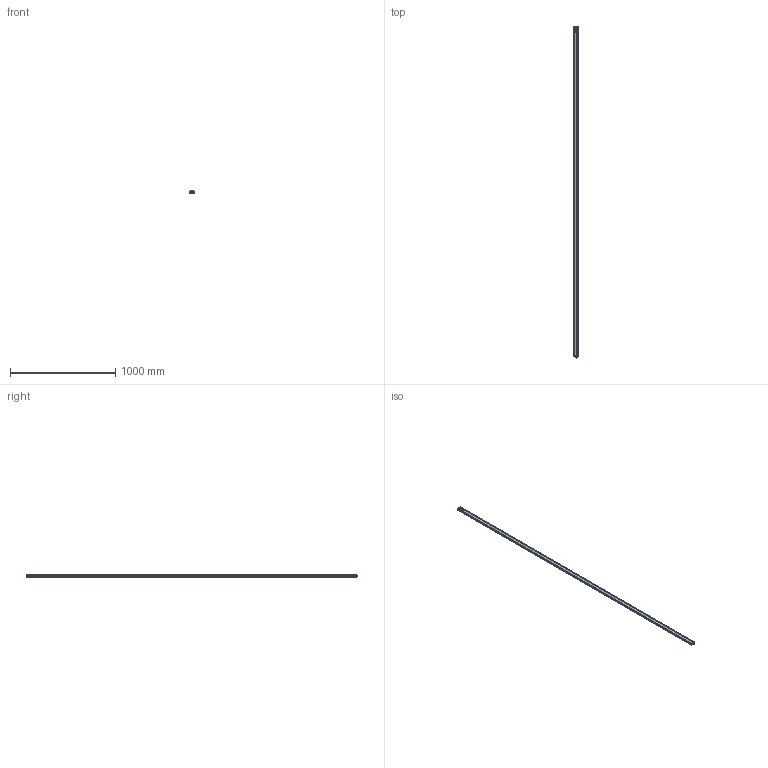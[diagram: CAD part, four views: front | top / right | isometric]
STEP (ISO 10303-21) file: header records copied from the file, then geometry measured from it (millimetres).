
FILE_DESCRIPTION(/* description */ (''),/* implementation_level */ '2;1');
FILE_NAME(/* name */ 'C:\Users\andre\SynologyDrive\Optoscan\Libreria Componenti\00 - Barriere\Barriera sorgente\Argo_3120_RX.stp',/* time_stamp */ '2021-04-23T12:52:17+02:00',/* author */ ('andre'),/* organization */ (''),/* preprocessor_version */ 'ST-DEVELOPER v18',/* originating_system */ 'Autodesk Inventor 2020',/* authorisation */ '');
FILE_SCHEMA (('AUTOMOTIVE_DESIGN { 1 0 10303 214 3 1 1 }'));
Length unit declared in the file: millimetre
Products named in the file (1): Argo_3120_RX
Bounding box: 40.5 x 3153.3 x 20.75 mm (x, y, z)
Volume: 618219.8 mm3; surface area: 823873.8 mm2
Topology: 1 solids, 1 shells, 676 faces, 1854 edges, 1185 vertices
Faces by surface type: plane 315, cylinder 191, bspline 94, torus 62, cone 8, sphere 6
Full cylindrical faces by diameter (mm): 1 x4, 2.5 x4, 3 x4, 3.5 x4, 5.5 x4, 8 x1, 10.5 x2, 11.75 x9, 15.7 x1, 17.5 x1
Entity records: 27592 total; most frequent: CARTESIAN_POINT 10103, ORIENTED_EDGE 3690, DIRECTION 3271, EDGE_CURVE 1845, VERTEX_POINT 1185, AXIS2_PLACEMENT_3D 1127, LINE 1017, VECTOR 1017
